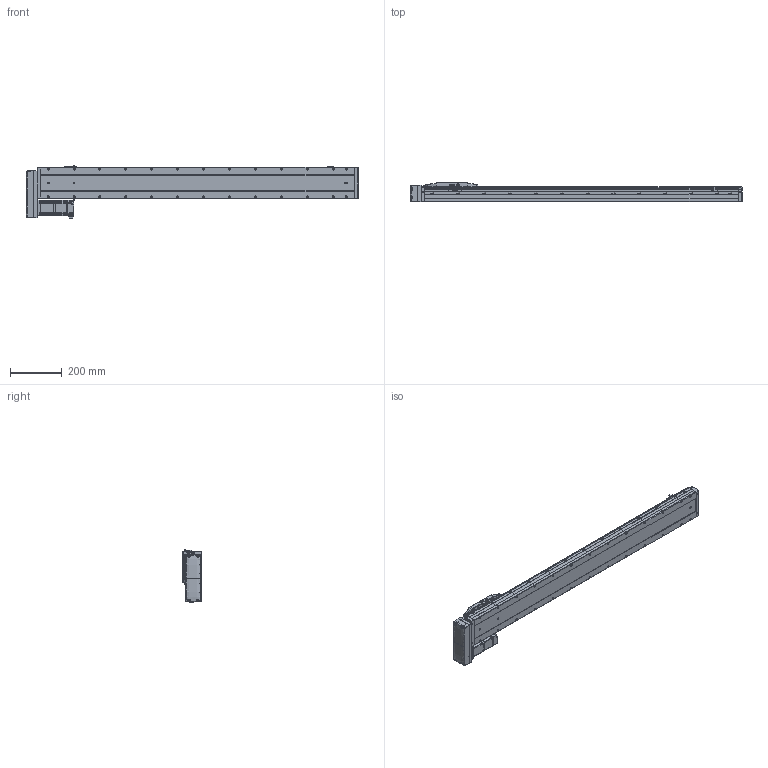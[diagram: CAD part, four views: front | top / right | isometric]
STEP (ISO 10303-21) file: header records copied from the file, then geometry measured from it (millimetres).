
FILE_DESCRIPTION (( 'STEP AP214' ), '1' );
FILE_NAME ('CTH12-L10-S1000-BR-C40（简）.STEP', '2023-02-04T06:59:27', ( '' ), ( '' ), 'SwSTEP 2.0', 'SolidWorks 2018', '' );
FILE_SCHEMA (( 'AUTOMOTIVE_DESIGN' ));
Length unit declared in the file: millimetre
Products named in the file (24): AC60_Valor predeterminado; CTH嫖萇羲壽假蚾啣; CTH12賑怢郪磁; CTH400W垫板（3个厚）; 内六角圆柱头螺钉M3-1; 内六角圆柱头螺钉M3-2; CTH12_body_3; CTH12-L10-S1000-BR-C40（简）; CTH12侧装连接板（标准）简; hex nuts, style 1-grades ab gb_GB_FASTENER_NUT_SNAB1 M3-N; 湮賑怢  裔赽-1(CTH12)賑怢; CTH12; 嫖萇羲壽郪磁2; PM-Y45; 嫖萇羲壽郪磁1; CTH12賑怢ㄗ潠ㄘ; CTH12-BL_body_4; CTH12覜茼え; CTH12耜蚾裔; CTH12底座-L1211简（1000行程）; CTH400W假蚾啣; 蚐郲; 内六角圆柱头螺钉M3; M5蹟隊
Assembly tree (44 placements, depth 4):
  CTH12-L10-S1000-BR-C40（简）
    CTH12底座-L1211简（1000行程）
    蚐郲  x2
    CTH12_body_3
    CTH12-BL_body_4
    CTH12侧装连接板（标准）简
    CTH12耜蚾裔
    CTH12賑怢郪磁
      CTH12
        湮賑怢  裔赽-1(CTH12)賑怢
        CTH12賑怢ㄗ潠ㄘ
    CTH12覜茼え
    嫖萇羲壽郪磁1  x2
      CTH嫖萇羲壽假蚾啣
      PM-Y45
      内六角圆柱头螺钉M3-2
      内六角圆柱头螺钉M3-1
      hex nuts, style 1-grades ab gb_GB_FASTENER_NUT_SNAB1 M3-N
    嫖萇羲壽郪磁2
      CTH嫖萇羲壽假蚾啣
      PM-Y45
      内六角圆柱头螺钉M3-1  x2
      内六角圆柱头螺钉M3-2  x2
      hex nuts, style 1-grades ab gb_GB_FASTENER_NUT_SNAB1 M3-N  x2
    CTH400W垫板（3个厚）
    AC60_Valor predeterminado
    内六角圆柱头螺钉M3  x6
    M5蹟隊  x4
    CTH400W假蚾啣
Bounding box: 1281.5 x 76 x 201.06 mm (x, y, z)
Volume: 8761225.3 mm3; surface area: 769857 mm2
Topology: 47 solids, 48 shells, 2975 faces, 7588 edges, 4831 vertices
Faces by surface type: plane 1599, cylinder 825, cone 391, bspline 108, torus 52
Entity records: 87421 total; most frequent: CARTESIAN_POINT 24294, ORIENTED_EDGE 12356, DIRECTION 12033, EDGE_CURVE 6178, AXIS2_PLACEMENT_3D 4088, VERTEX_POINT 3935, LINE 3857, VECTOR 3857
